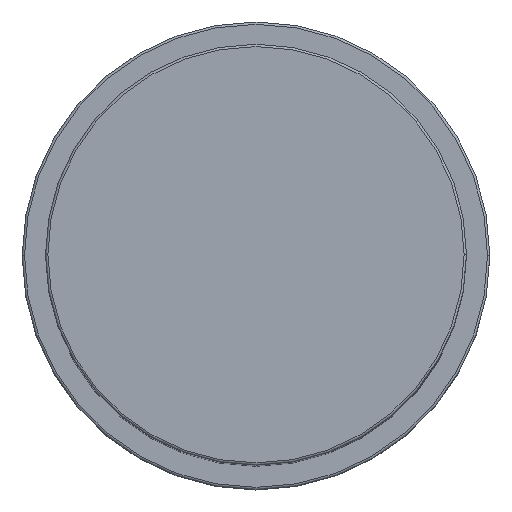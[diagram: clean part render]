
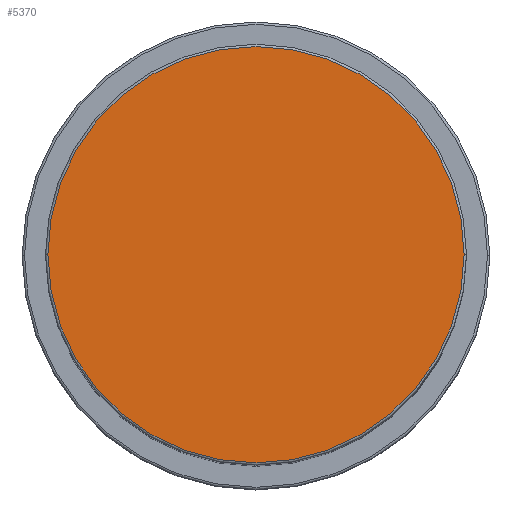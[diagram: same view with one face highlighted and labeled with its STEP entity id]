
A CAD part, top view. The second image highlights one B-rep face of the part: STEP entity #5370.
In plain terms, the highlighted planar face has unit normal (0, 0, 1).
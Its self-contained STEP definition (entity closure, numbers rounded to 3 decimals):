
#173 = CARTESIAN_POINT ( 'NONE',  ( -44.5, 0., 159. ) ) ;
#199 = CIRCLE ( 'NONE', #2297, 44.5 ) ;
#311 = EDGE_LOOP ( 'NONE', ( #6418, #7088 ) ) ;
#1202 = AXIS2_PLACEMENT_3D ( 'NONE', #4329, #3235, #7222 ) ;
#1490 = EDGE_CURVE ( 'NONE', #2871, #4468, #1645, .T. ) ;
#1645 = CIRCLE ( 'NONE', #5694, 44.5 ) ;
#2297 = AXIS2_PLACEMENT_3D ( 'NONE', #2730, #6675, #3282 ) ;
#2384 = DIRECTION ( 'NONE',  ( 1., 0., 0. ) ) ;
#2730 = CARTESIAN_POINT ( 'NONE',  ( 0., 0., 159. ) ) ;
#2871 = VERTEX_POINT ( 'NONE', #5436 ) ;
#3235 = DIRECTION ( 'NONE',  ( 0., 0., 1. ) ) ;
#3282 = DIRECTION ( 'NONE',  ( 1., 0., 0. ) ) ;
#4303 = FACE_OUTER_BOUND ( 'NONE', #311, .T. ) ;
#4329 = CARTESIAN_POINT ( 'NONE',  ( 0., 0., 159. ) ) ;
#4468 = VERTEX_POINT ( 'NONE', #173 ) ;
#5370 = ADVANCED_FACE ( 'NONE', ( #4303 ), #6602, .T. ) ;
#5436 = CARTESIAN_POINT ( 'NONE',  ( 44.5, 0., 159. ) ) ;
#5694 = AXIS2_PLACEMENT_3D ( 'NONE', #6898, #5759, #2384 ) ;
#5759 = DIRECTION ( 'NONE',  ( 0., 0., 1. ) ) ;
#6418 = ORIENTED_EDGE ( 'NONE', *, *, #1490, .T. ) ;
#6602 = PLANE ( 'NONE',  #1202 ) ;
#6675 = DIRECTION ( 'NONE',  ( 0., 0., 1. ) ) ;
#6898 = CARTESIAN_POINT ( 'NONE',  ( 0., 0., 159. ) ) ;
#6971 = EDGE_CURVE ( 'NONE', #4468, #2871, #199, .T. ) ;
#7088 = ORIENTED_EDGE ( 'NONE', *, *, #6971, .T. ) ;
#7222 = DIRECTION ( 'NONE',  ( 1., 0., 0. ) ) ;
